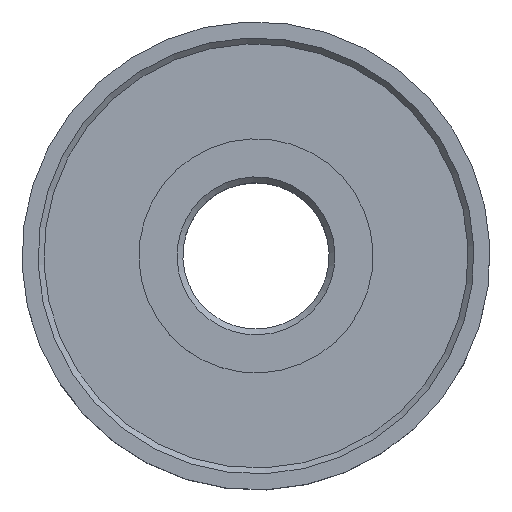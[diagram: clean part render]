
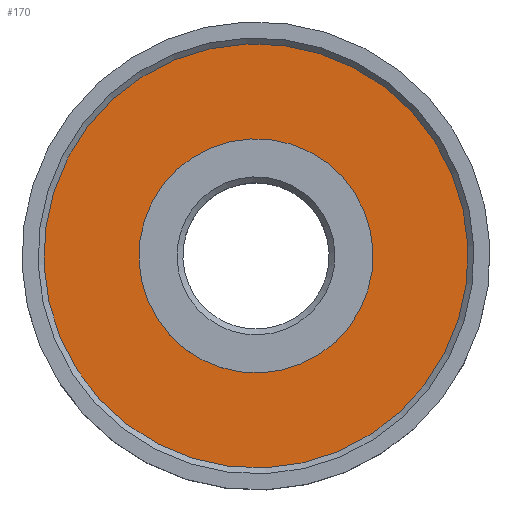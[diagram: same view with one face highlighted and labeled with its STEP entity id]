
A CAD part, top view. The second image highlights one B-rep face of the part: STEP entity #170.
In plain terms, the highlighted planar face has unit normal (0, 0, 1).
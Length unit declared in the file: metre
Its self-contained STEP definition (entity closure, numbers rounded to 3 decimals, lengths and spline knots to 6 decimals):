
#13=PLANE('',#212);
#39=ORIENTED_EDGE('',*,*,#65,.F.);
#40=ORIENTED_EDGE('',*,*,#60,.T.);
#60=EDGE_CURVE('',#75,#75,#90,.T.);
#65=EDGE_CURVE('',#80,#80,#95,.T.);
#75=VERTEX_POINT('',#302);
#80=VERTEX_POINT('',#316);
#90=CIRCLE('',#201,0.00725);
#95=CIRCLE('',#210,0.004);
#114=EDGE_LOOP('',(#39));
#115=EDGE_LOOP('',(#40));
#144=FACE_BOUND('',#114,.T.);
#145=FACE_BOUND('',#115,.T.);
#170=ADVANCED_FACE('',(#144,#145),#13,.T.);
#201=AXIS2_PLACEMENT_3D('',#301,#244,#245);
#210=AXIS2_PLACEMENT_3D('',#315,#262,#263);
#212=AXIS2_PLACEMENT_3D('',#319,#266,#267);
#244=DIRECTION('',(0.,0.,1.));
#245=DIRECTION('',(0.383,-0.924,0.));
#262=DIRECTION('',(0.,0.,1.));
#263=DIRECTION('',(0.383,-0.924,0.));
#266=DIRECTION('',(0.,0.,1.));
#267=DIRECTION('',(0.383,-0.924,0.));
#301=CARTESIAN_POINT('',(-0.005798,-0.024952,-0.224147));
#302=CARTESIAN_POINT('',(-0.003021,-0.031649,-0.224147));
#315=CARTESIAN_POINT('',(-0.005798,-0.024952,-0.224147));
#316=CARTESIAN_POINT('',(-0.004266,-0.028646,-0.224147));
#319=CARTESIAN_POINT('',(-0.005798,-0.024952,-0.224147));
